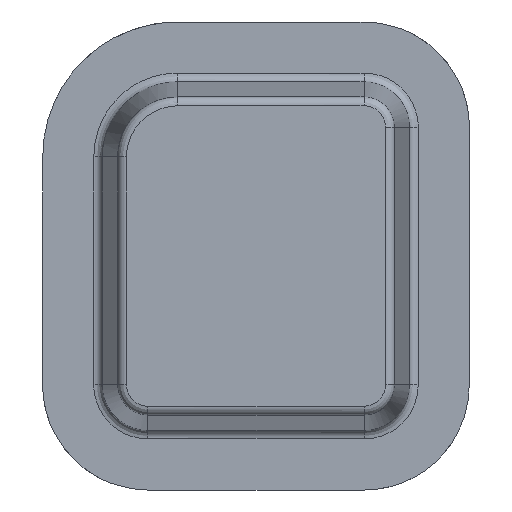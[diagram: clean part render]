
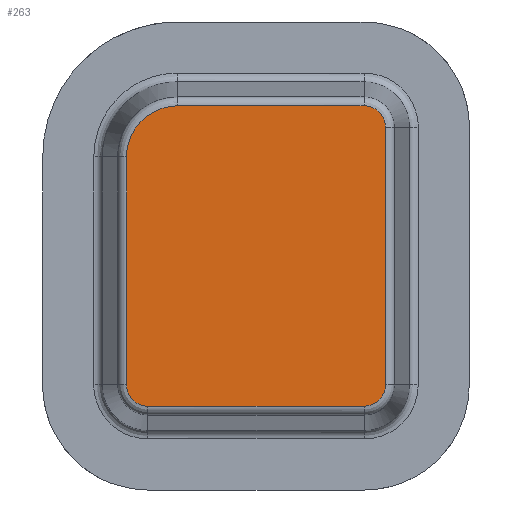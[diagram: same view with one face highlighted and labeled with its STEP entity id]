
A CAD part, front view. The second image highlights one B-rep face of the part: STEP entity #263.
In plain terms, the highlighted planar face has unit normal (0, -1, 0).
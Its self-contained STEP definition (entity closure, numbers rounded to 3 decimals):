
#144=CARTESIAN_POINT('Axis2P3D Location',(47.58,0.,52.42)) ;
#149=CARTESIAN_POINT('Line Origine',(2.749,0.,48.5)) ;
#153=CARTESIAN_POINT('Vertex',(2.749,0.,87.)) ;
#155=CARTESIAN_POINT('Vertex',(2.749,0.,10.)) ;
#159=CARTESIAN_POINT('Control Point',(2.749,0.,10.)) ;
#160=CARTESIAN_POINT('Control Point',(2.749,0.,9.038)) ;
#161=CARTESIAN_POINT('Control Point',(2.908,0.,8.077)) ;
#162=CARTESIAN_POINT('Control Point',(3.227,0.,7.152)) ;
#163=CARTESIAN_POINT('Control Point',(4.158,0.,5.442)) ;
#164=CARTESIAN_POINT('Control Point',(5.589,0.,4.124)) ;
#165=CARTESIAN_POINT('Control Point',(6.409,0.,3.59)) ;
#166=CARTESIAN_POINT('Control Point',(7.6,0.,3.072)) ;
#167=CARTESIAN_POINT('Control Point',(8.861,0.,2.828)) ;
#168=CARTESIAN_POINT('Control Point',(9.18,0.,2.785)) ;
#169=CARTESIAN_POINT('Control Point',(9.536,0.,2.756)) ;
#170=CARTESIAN_POINT('Control Point',(9.892,0.,2.75)) ;
#171=CARTESIAN_POINT('Control Point',(9.928,0.,2.749)) ;
#172=CARTESIAN_POINT('Control Point',(9.964,0.,2.749)) ;
#173=CARTESIAN_POINT('Control Point',(10.,0.,2.749)) ;
#174=CARTESIAN_POINT('Vertex',(10.,0.,2.749)) ;
#177=CARTESIAN_POINT('Line Origine',(46.5,0.,2.749)) ;
#181=CARTESIAN_POINT('Vertex',(83.,0.,2.749)) ;
#185=CARTESIAN_POINT('Control Point',(83.,0.,2.749)) ;
#186=CARTESIAN_POINT('Control Point',(83.962,0.,2.749)) ;
#187=CARTESIAN_POINT('Control Point',(84.923,0.,2.908)) ;
#188=CARTESIAN_POINT('Control Point',(85.848,0.,3.227)) ;
#189=CARTESIAN_POINT('Control Point',(87.558,0.,4.158)) ;
#190=CARTESIAN_POINT('Control Point',(88.876,0.,5.589)) ;
#191=CARTESIAN_POINT('Control Point',(89.41,0.,6.409)) ;
#192=CARTESIAN_POINT('Control Point',(89.928,0.,7.6)) ;
#193=CARTESIAN_POINT('Control Point',(90.172,0.,8.861)) ;
#194=CARTESIAN_POINT('Control Point',(90.215,0.,9.18)) ;
#195=CARTESIAN_POINT('Control Point',(90.244,0.,9.536)) ;
#196=CARTESIAN_POINT('Control Point',(90.25,0.,9.892)) ;
#197=CARTESIAN_POINT('Control Point',(90.251,0.,9.928)) ;
#198=CARTESIAN_POINT('Control Point',(90.251,0.,9.964)) ;
#199=CARTESIAN_POINT('Control Point',(90.251,0.,10.)) ;
#200=CARTESIAN_POINT('Vertex',(90.251,0.,10.)) ;
#203=CARTESIAN_POINT('Line Origine',(90.251,0.,53.5)) ;
#207=CARTESIAN_POINT('Vertex',(90.251,0.,97.)) ;
#211=CARTESIAN_POINT('Control Point',(90.251,0.,97.)) ;
#212=CARTESIAN_POINT('Control Point',(90.251,0.,97.962)) ;
#213=CARTESIAN_POINT('Control Point',(90.092,0.,98.923)) ;
#214=CARTESIAN_POINT('Control Point',(89.773,0.,99.848)) ;
#215=CARTESIAN_POINT('Control Point',(88.842,0.,101.558)) ;
#216=CARTESIAN_POINT('Control Point',(87.411,0.,102.876)) ;
#217=CARTESIAN_POINT('Control Point',(86.591,0.,103.41)) ;
#218=CARTESIAN_POINT('Control Point',(85.4,0.,103.928)) ;
#219=CARTESIAN_POINT('Control Point',(84.139,0.,104.172)) ;
#220=CARTESIAN_POINT('Control Point',(83.82,0.,104.215)) ;
#221=CARTESIAN_POINT('Control Point',(83.464,0.,104.244)) ;
#222=CARTESIAN_POINT('Control Point',(83.108,0.,104.25)) ;
#223=CARTESIAN_POINT('Control Point',(83.072,0.,104.251)) ;
#224=CARTESIAN_POINT('Control Point',(83.036,0.,104.251)) ;
#225=CARTESIAN_POINT('Control Point',(83.,0.,104.251)) ;
#226=CARTESIAN_POINT('Vertex',(83.,0.,104.251)) ;
#229=CARTESIAN_POINT('Line Origine',(51.5,0.,104.251)) ;
#233=CARTESIAN_POINT('Vertex',(20.,0.,104.251)) ;
#237=CARTESIAN_POINT('Control Point',(20.,0.,104.251)) ;
#238=CARTESIAN_POINT('Control Point',(18.077,0.,104.251)) ;
#239=CARTESIAN_POINT('Control Point',(16.154,0.,103.983)) ;
#240=CARTESIAN_POINT('Control Point',(14.282,0.,103.447)) ;
#241=CARTESIAN_POINT('Control Point',(10.736,0.,101.869)) ;
#242=CARTESIAN_POINT('Control Point',(7.757,0.,99.382)) ;
#243=CARTESIAN_POINT('Control Point',(6.451,0.,97.938)) ;
#244=CARTESIAN_POINT('Control Point',(4.493,0.,95.045)) ;
#245=CARTESIAN_POINT('Control Point',(3.313,0.,91.767)) ;
#246=CARTESIAN_POINT('Control Point',(2.954,0.,90.258)) ;
#247=CARTESIAN_POINT('Control Point',(2.762,0.,88.684)) ;
#248=CARTESIAN_POINT('Control Point',(2.749,0.,87.109)) ;
#249=CARTESIAN_POINT('Control Point',(2.749,0.,87.072)) ;
#250=CARTESIAN_POINT('Control Point',(2.749,0.,87.036)) ;
#251=CARTESIAN_POINT('Control Point',(2.749,0.,87.)) ;
#145=DIRECTION('Axis2P3D Direction',(0.,-1.,0.)) ;
#146=DIRECTION('Axis2P3D XDirection',(0.189,0.,0.982)) ;
#150=DIRECTION('Vector Direction',(0.,0.,1.)) ;
#178=DIRECTION('Vector Direction',(1.,0.,0.)) ;
#204=DIRECTION('Vector Direction',(0.,0.,1.)) ;
#230=DIRECTION('Vector Direction',(-1.,0.,0.)) ;
#147=AXIS2_PLACEMENT_3D('Plane Axis2P3D',#144,#145,#146) ;
#254=ORIENTED_EDGE('',*,*,#157,.T.) ;
#255=ORIENTED_EDGE('',*,*,#176,.T.) ;
#256=ORIENTED_EDGE('',*,*,#183,.T.) ;
#257=ORIENTED_EDGE('',*,*,#202,.T.) ;
#258=ORIENTED_EDGE('',*,*,#209,.T.) ;
#259=ORIENTED_EDGE('',*,*,#228,.T.) ;
#260=ORIENTED_EDGE('',*,*,#235,.T.) ;
#261=ORIENTED_EDGE('',*,*,#252,.T.) ;
#151=VECTOR('Line Direction',#150,1.) ;
#179=VECTOR('Line Direction',#178,1.) ;
#205=VECTOR('Line Direction',#204,1.) ;
#231=VECTOR('Line Direction',#230,1.) ;
#263=ADVANCED_FACE('base',(#262),#148,.T.) ;
#158=B_SPLINE_CURVE_WITH_KNOTS('',5,(#159,#160,#161,#162,#163,#164,#165,#166,#167,#168,#169,#170,#171,#172,#173),.UNSPECIFIED.,.F.,.U.,(6,3,3,3,6),(26.36,36.282,46.21,49.518,49.889),.UNSPECIFIED.) ;
#184=B_SPLINE_CURVE_WITH_KNOTS('',5,(#185,#186,#187,#188,#189,#190,#191,#192,#193,#194,#195,#196,#197,#198,#199),.UNSPECIFIED.,.F.,.U.,(6,3,3,3,6),(26.361,36.283,46.21,49.519,49.889),.UNSPECIFIED.) ;
#210=B_SPLINE_CURVE_WITH_KNOTS('',5,(#211,#212,#213,#214,#215,#216,#217,#218,#219,#220,#221,#222,#223,#224,#225),.UNSPECIFIED.,.F.,.U.,(6,3,3,3,6),(26.36,36.282,46.209,49.518,49.888),.UNSPECIFIED.) ;
#236=B_SPLINE_CURVE_WITH_KNOTS('',5,(#237,#238,#239,#240,#241,#242,#243,#244,#245,#246,#247,#248,#249,#250,#251),.UNSPECIFIED.,.F.,.U.,(6,3,3,3,6),(38.414,54.421,70.448,83.261,83.563),.UNSPECIFIED.) ;
#157=EDGE_CURVE('',#154,#156,#152,.F.) ;
#176=EDGE_CURVE('',#156,#175,#158,.T.) ;
#183=EDGE_CURVE('',#175,#182,#180,.T.) ;
#202=EDGE_CURVE('',#182,#201,#184,.T.) ;
#209=EDGE_CURVE('',#201,#208,#206,.T.) ;
#228=EDGE_CURVE('',#208,#227,#210,.T.) ;
#235=EDGE_CURVE('',#227,#234,#232,.T.) ;
#252=EDGE_CURVE('',#234,#154,#236,.T.) ;
#253=EDGE_LOOP('',(#254,#255,#256,#257,#258,#259,#260,#261)) ;
#262=FACE_OUTER_BOUND('',#253,.T.) ;
#152=LINE('Line',#149,#151) ;
#180=LINE('Line',#177,#179) ;
#206=LINE('Line',#203,#205) ;
#232=LINE('Line',#229,#231) ;
#148=PLANE('',#147) ;
#154=VERTEX_POINT('',#153) ;
#156=VERTEX_POINT('',#155) ;
#175=VERTEX_POINT('',#174) ;
#182=VERTEX_POINT('',#181) ;
#201=VERTEX_POINT('',#200) ;
#208=VERTEX_POINT('',#207) ;
#227=VERTEX_POINT('',#226) ;
#234=VERTEX_POINT('',#233) ;
